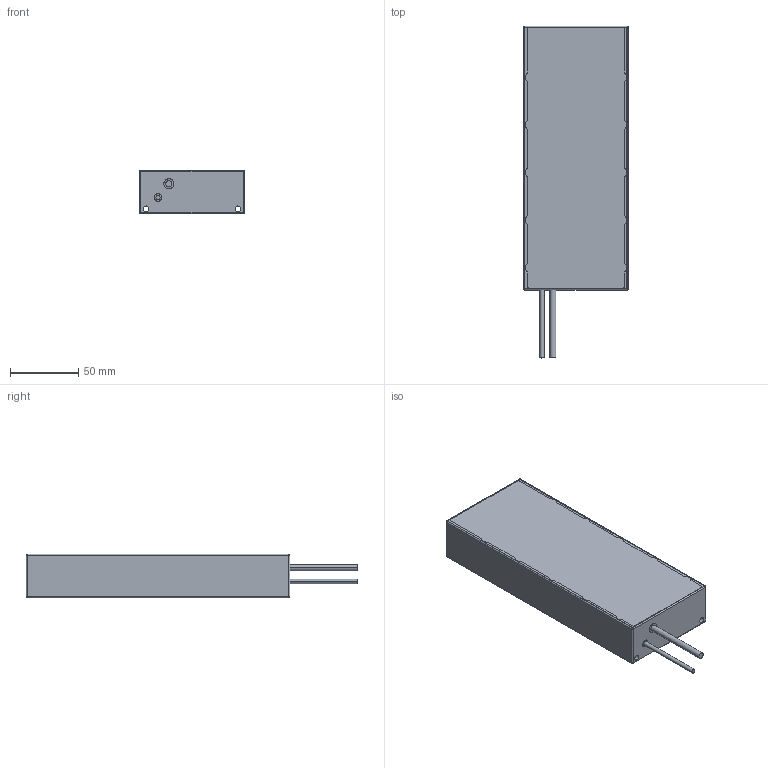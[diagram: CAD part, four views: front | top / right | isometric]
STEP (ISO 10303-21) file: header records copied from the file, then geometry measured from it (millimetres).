
FILE_DESCRIPTION (( 'STEP AP203' ), '1' );
FILE_NAME ('ICV76-9.STEP', '2024-07-23T06:59:06', ( '' ), ( '' ), 'SwSTEP 2.0', 'SolidWorks 2019', '' );
FILE_SCHEMA (( 'CONFIG_CONTROL_DESIGN' ));
Length unit declared in the file: millimetre
Products named in the file (7): IC76-恲諷橈埽璃; IC76-12桏帣; IC76-萇擢橈埽璃; 錨璃15^IC76-9; IC76-9褲极; ICV76-9; 錨璃2^IC76-9
Assembly tree (8 placements, depth 2):
  ICV76-9
    IC76-9褲极
    IC76-12桏帣  x3
    IC76-恲諷橈埽璃
    IC76-萇擢橈埽璃
    錨璃2^IC76-9
    錨璃15^IC76-9
Bounding box: 77 x 244 x 32 mm (x, y, z)
Volume: 517074.2 mm3; surface area: 117679.2 mm2
Topology: 9 solids, 9 shells, 329 faces, 889 edges, 578 vertices
Faces by surface type: cylinder 169, plane 152, sphere 8
Entity records: 8928 total; most frequent: CARTESIAN_POINT 1467, DIRECTION 1463, ORIENTED_EDGE 1378, EDGE_CURVE 689, AXIS2_PLACEMENT_3D 526, VERTEX_POINT 450, VECTOR 411, LINE 411
